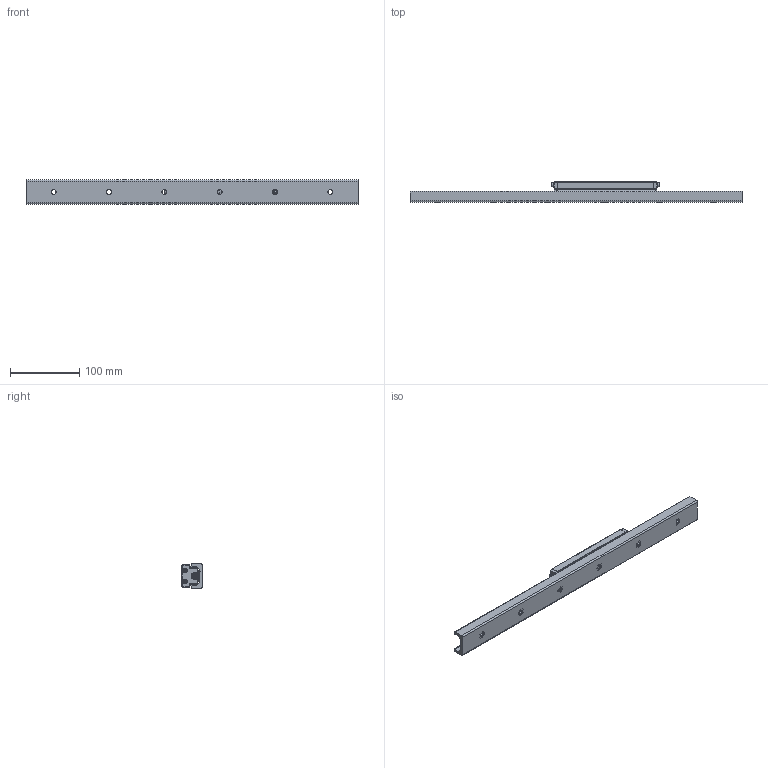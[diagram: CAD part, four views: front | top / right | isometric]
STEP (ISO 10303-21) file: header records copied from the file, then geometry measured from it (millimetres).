
FILE_DESCRIPTION(/* description */ ('STEP AP214'),/* implementation_level */ '2;1');
FILE_NAME(/* name */ 'AWG35RB1SS+480L(2000)',/* time_stamp */ '2024-10-17T13:38:45+02:00',/* author */ ('License CC BY-ND 4.0'),/* organization */ ('CADENAS'),/* preprocessor_version */ 'ST-DEVELOPER v19.3',/* originating_system */ 'PARTsolutions',/* authorisation */ ' ');
FILE_SCHEMA (('AUTOMOTIVE_DESIGN {1 0 10303 214 3 1 1}'));
Length unit declared in the file: millimetre
Products named in the file (5): AWG35RB1SS+480L(2000); AWG35RB1SS+480L A-M6F 200 0_rail; AWG35RB1SS+480L_carriage; AWG35RB_SSL_seal; AWG-RA_A-M6F_grease_nipple
Assembly tree (6 placements, depth 2):
  AWG35RB1SS+480L(2000)
    AWG35RB1SS+480L A-M6F 200 0_rail
    AWG35RB1SS+480L_carriage
    AWG35RB_SSL_seal  x2
    AWG-RA_A-M6F_grease_nipple  x2
Bounding box: 480 x 30 x 35 mm (x, y, z)
Volume: 196795.2 mm3; surface area: 99386.6 mm2
Topology: 6 solids, 14 shells, 977 faces, 2418 edges, 1567 vertices
Faces by surface type: plane 499, cylinder 316, cone 104, torus 46, sphere 8, bspline 4
Full cylindrical faces by diameter (mm): 2 x8, 2.46 x4, 3 x4, 3.2 x4, 3.7 x2, 4.08 x4, 4.13 x4, 4.917 x4, 5 x4, 5.19 x2, 5.3 x4, 5.5 x8, 6 x2, 6.5 x2, 7 x10, 8 x4, 8.5 x4, 8.9 x2, 9 x6, 10 x4, 11 x10, 13 x6, 14.7 x8, 22.5 x8
Entity records: 23922 total; most frequent: CARTESIAN_POINT 4487, DIRECTION 4121, ORIENTED_EDGE 3692, EDGE_CURVE 1846, AXIS2_PLACEMENT_3D 1587, VERTEX_POINT 1313, FACE_BOUND 1143, EDGE_LOOP 1133
